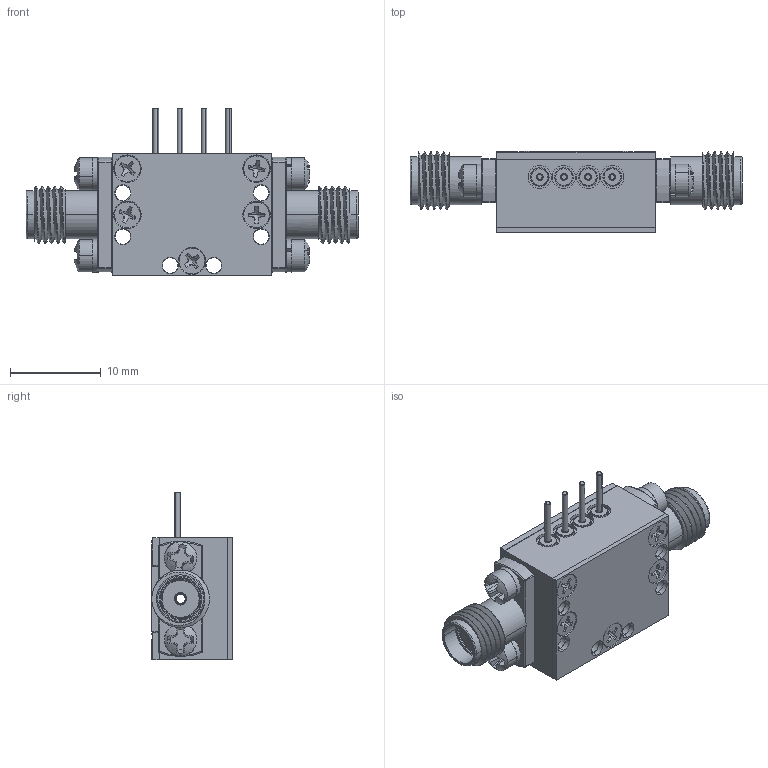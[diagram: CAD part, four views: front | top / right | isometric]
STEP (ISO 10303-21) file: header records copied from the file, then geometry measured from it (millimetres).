
FILE_DESCRIPTION (( 'STEP AP214' ), '1' );
FILE_NAME ('P1T-2G18G-60-R-55-SFF.STEP', '2024-10-18T17:31:30', ( '' ), ( '' ), 'SwSTEP 2.0', 'SolidWorks 2024', '' );
FILE_SCHEMA (( 'AUTOMOTIVE_DESIGN' ));
Length unit declared in the file: inch
Products named in the file (1): P1T-2G18G-60-R-55-SFF
Bounding box: 36.58 x 8.92 x 18.49 mm (x, y, z)
Surface area: 2680.8 mm2 (no closed solid volume)
Topology: 0 solids, 26 shells, 639 faces, 2608 edges, 2091 vertices
Faces by surface type: plane 353, cylinder 160, torus 60, cone 40, sphere 22, bspline 4
Entity records: 39401 total; most frequent: CARTESIAN_POINT 11376, ORIENTED_EDGE 4930, DIRECTION 3928, EDGE_CURVE 2584, VERTEX_POINT 2091, AXIS2_PLACEMENT_3D 1329, LINE 1270, VECTOR 1270
